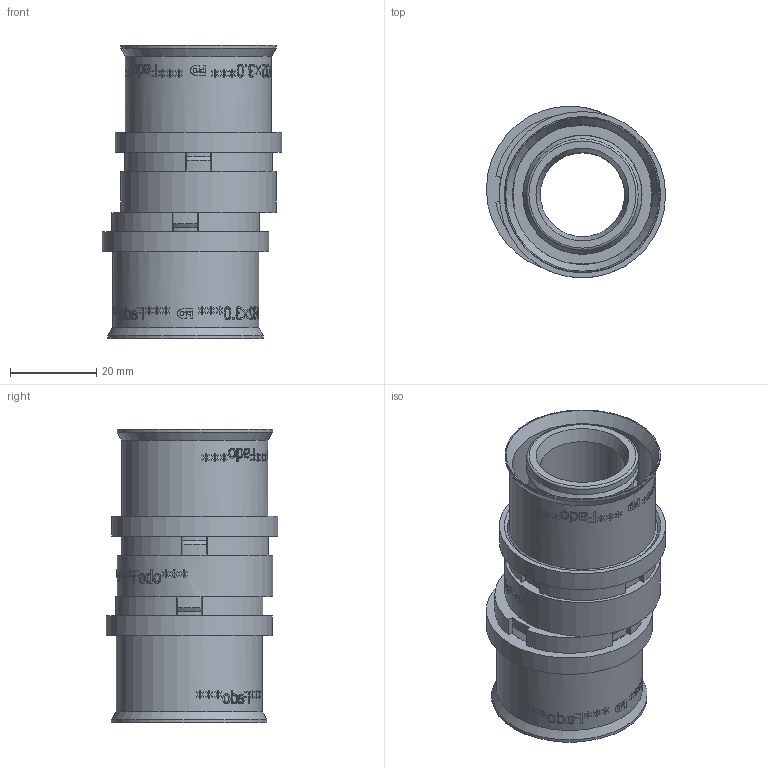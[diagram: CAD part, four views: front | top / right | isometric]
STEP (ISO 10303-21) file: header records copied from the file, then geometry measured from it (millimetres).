
FILE_DESCRIPTION(/* description */ (''),/* implementation_level */ '2;1');
FILE_NAME(/* name */ 'C:\Users\Doom\Desktop\Фадотех\Пресс\HDM09 32 Coupler 31.03.2020\HDM09 32 Coupler 31.03.2020.stp',/* time_stamp */ '2022-08-11T13:42:37+03:00',/* author */ ('Doom'),/* organization */ (''),/* preprocessor_version */ 'ST-DEVELOPER v18',/* originating_system */ 'Autodesk Inventor 2020',/* authorisation */ '');
FILE_SCHEMA (('AUTOMOTIVE_DESIGN { 1 0 10303 214 3 1 1 }'));
Products named in the file (6): HDM01 Coupler 31.03.2020; 16 Model 18.12.2019; 16 Model 18.12.2019_1; 16 Model 18.12.2019_2; 32 LDPE Seats 27.02.2020_ЗЕРКАЛО1; 32 SUS Ferrules 27.02.2020_ЗЕРКАЛО1
Assembly tree (5 placements, depth 2):
  HDM01 Coupler 31.03.2020
    16 Model 18.12.2019
    16 Model 18.12.2019_1
    16 Model 18.12.2019_2
    32 LDPE Seats 27.02.2020_ЗЕРКАЛО1
    32 SUS Ferrules 27.02.2020_ЗЕРКАЛО1
Bounding box: 41.47 x 39.79 x 67.9 mm (x, y, z)
Volume: 24621.2 mm3; surface area: 29045.5 mm2
Topology: 5 solids, 5 shells, 1484 faces, 4185 edges, 2818 vertices
Faces by surface type: bspline 969, plane 320, cylinder 157, cone 28, torus 10
Full cylindrical faces by diameter (mm): 19.5 x1, 22.6 x4, 23.8 x2, 25.8 x16, 26.5 x2, 26.6 x2, 27.5 x2, 27.6 x2, 32.4 x4, 33.8 x2, 34.8 x2, 35.5 x2, 35.6 x2, 36 x3, 38.5 x2
Entity records: 66237 total; most frequent: CARTESIAN_POINT 33023, ORIENTED_EDGE 8370, EDGE_CURVE 4185, DIRECTION 3949, VERTEX_POINT 2818, B_SPLINE_CURVE_WITH_KNOTS 1938, EDGE_LOOP 1617, LINE 1597
